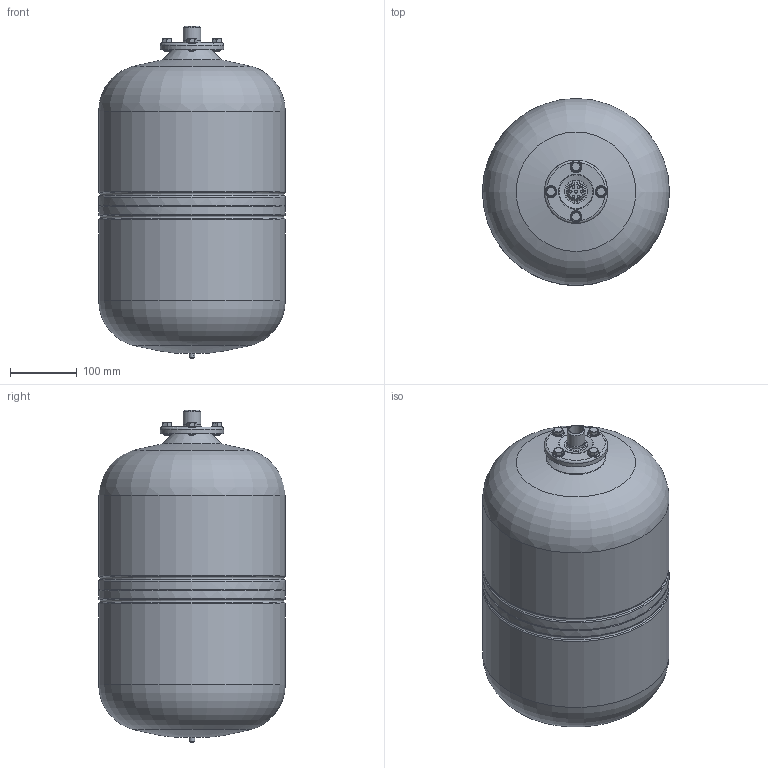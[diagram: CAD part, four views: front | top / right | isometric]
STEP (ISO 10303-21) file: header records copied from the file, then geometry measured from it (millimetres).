
FILE_DESCRIPTION(('STEP AP214'), '1');
FILE_NAME('WAV-24(ôë.90)', '', ('UNSPECIFIED'), ('UNSPECIFIED'), 'ASCON STEP Converter 1.3', 'ASCON Math Kernel', '');
FILE_SCHEMA(('AUTOMOTIVE_DESIGN { 1 0 10303 214 3 1 1}'));
Length unit declared in the file: millimetre
Bounding box: 280.54 x 280.54 x 498 mm (x, y, z)
Volume: 24772723.4 mm3; surface area: 462134.9 mm2
Topology: 8 solids, 9 shells, 225 faces, 540 edges, 356 vertices
Faces by surface type: plane 118, cylinder 37, cone 27, torus 25, bspline 16, sphere 2
Full cylindrical faces by diameter (mm): 4 x7, 5.5 x1, 8 x9, 9 x4, 10.6 x4, 21.2 x1, 26.442 x1, 26.8 x1, 95 x1, 280 x4
Entity records: 12642 total; most frequent: CARTESIAN_POINT 5752, DIRECTION 1064, ORIENTED_EDGE 936, AXIS2_PLACEMENT_3D 481, EDGE_CURVE 468, VERTEX_POINT 354, EDGE_LOOP 326, FACE_BOUND 304
